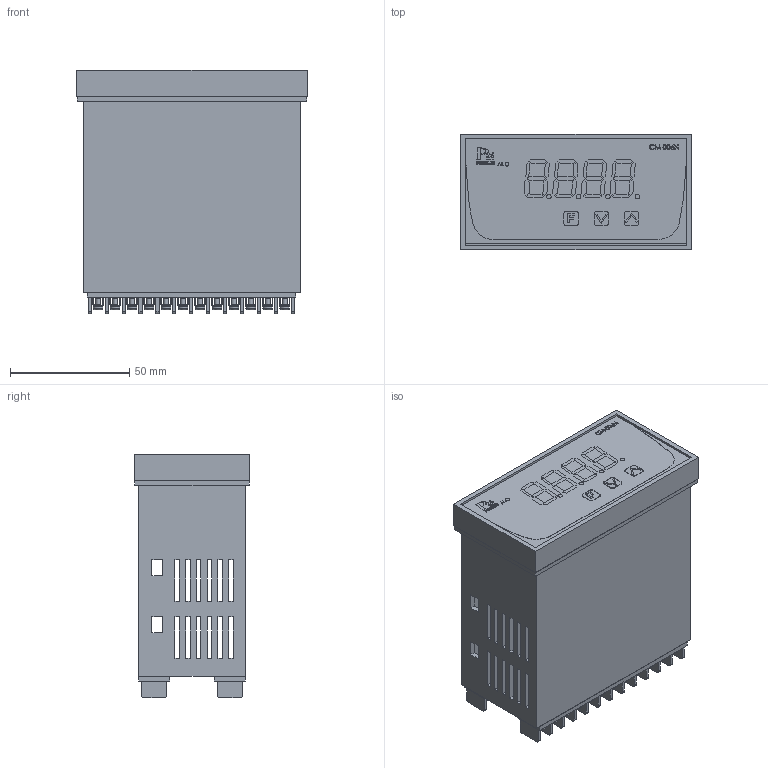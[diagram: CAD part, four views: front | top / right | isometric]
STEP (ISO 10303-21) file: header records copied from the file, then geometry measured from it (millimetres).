
FILE_DESCRIPTION (( 'STEP AP214' ), '1' );
FILE_NAME ('CM-006N.STEP', '2026-05-13T08:42:16', ( '' ), ( '' ), 'SwSTEP 2.0', 'SolidWorks 2022', '' );
FILE_SCHEMA (( 'AUTOMOTIVE_DESIGN' ));
Length unit declared in the file: millimetre
Products named in the file (1): CM-006N
Bounding box: 96.6 x 48.5 x 102 mm (x, y, z)
Volume: 72516.1 mm3; surface area: 83196.2 mm2
Topology: 31 solids, 31 shells, 2343 faces, 6130 edges, 4014 vertices
Faces by surface type: plane 1632, cylinder 489, torus 96, cone 72, bspline 54
Entity records: 100763 total; most frequent: CARTESIAN_POINT 15918, ORIENTED_EDGE 12260, DIRECTION 11796, EDGE_CURVE 6130, VECTOR 4780, LINE 4780, VERTEX_POINT 4014, AXIS2_PLACEMENT_3D 3508
